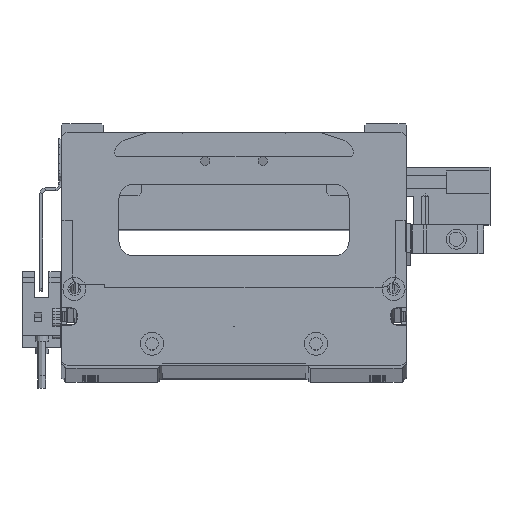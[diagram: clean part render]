
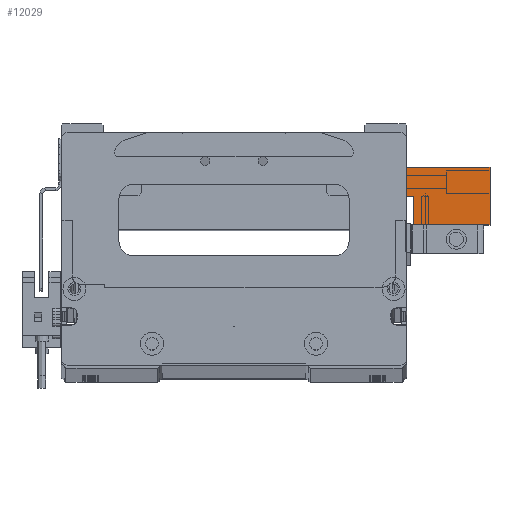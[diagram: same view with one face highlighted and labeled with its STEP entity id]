
A CAD part, top view. The second image highlights one B-rep face of the part: STEP entity #12029.
In plain terms, the highlighted planar face has unit normal (0, 0, 1) as drawn and (-1, 0, 0) by its records, which use the part's own axes.
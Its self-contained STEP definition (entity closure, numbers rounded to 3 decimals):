
#216 = CARTESIAN_POINT ( 'NONE',  ( -130.52, 37.563, 10. ) ) ;
#1068 = EDGE_CURVE ( 'NONE', #1139, #30859, #33059, .T. ) ;
#1106 = LINE ( 'NONE', #15042, #22186 ) ;
#1139 = VERTEX_POINT ( 'NONE', #13412 ) ;
#1992 = CARTESIAN_POINT ( 'NONE',  ( -130.52, 35.063, 10. ) ) ;
#2081 = VERTEX_POINT ( 'NONE', #11162 ) ;
#2779 = CARTESIAN_POINT ( 'NONE',  ( -130.52, 35.063, 0. ) ) ;
#3017 = VECTOR ( 'NONE', #18274, 1000. ) ;
#3190 = LINE ( 'NONE', #18556, #23072 ) ;
#3749 = LINE ( 'NONE', #31230, #11228 ) ;
#4391 = DIRECTION ( 'NONE',  ( 0., -1., 0. ) ) ;
#5702 = DIRECTION ( 'NONE',  ( 0., -1., 0. ) ) ;
#7121 = DIRECTION ( 'NONE',  ( 0., 0., -1. ) ) ;
#7205 = ORIENTED_EDGE ( 'NONE', *, *, #1068, .T. ) ;
#8000 = AXIS2_PLACEMENT_3D ( 'NONE', #28263, #20500, #7121 ) ;
#9073 = VERTEX_POINT ( 'NONE', #18221 ) ;
#9740 = VERTEX_POINT ( 'NONE', #2779 ) ;
#10949 = EDGE_CURVE ( 'NONE', #9073, #30859, #1106, .T. ) ;
#11095 = ORIENTED_EDGE ( 'NONE', *, *, #16547, .T. ) ;
#11162 = CARTESIAN_POINT ( 'NONE',  ( -130.52, 64.063, 0. ) ) ;
#11169 = ORIENTED_EDGE ( 'NONE', *, *, #10949, .F. ) ;
#11228 = VECTOR ( 'NONE', #12947, 1000. ) ;
#11972 = VECTOR ( 'NONE', #32256, 1000. ) ;
#12029 = ADVANCED_FACE ( 'NONE', ( #25854 ), #28502, .F. ) ;
#12794 = EDGE_CURVE ( 'NONE', #9073, #2081, #29110, .T. ) ;
#12947 = DIRECTION ( 'NONE',  ( 0., 0., -1. ) ) ;
#13412 = CARTESIAN_POINT ( 'NONE',  ( -130.52, 37.563, 10. ) ) ;
#14313 = EDGE_CURVE ( 'NONE', #16760, #9740, #3749, .T. ) ;
#15042 = CARTESIAN_POINT ( 'NONE',  ( -130.52, 64.063, 20. ) ) ;
#16547 = EDGE_CURVE ( 'NONE', #2081, #9740, #3190, .T. ) ;
#16760 = VERTEX_POINT ( 'NONE', #29852 ) ;
#17049 = ORIENTED_EDGE ( 'NONE', *, *, #12794, .T. ) ;
#18221 = CARTESIAN_POINT ( 'NONE',  ( -130.52, 64.063, 20. ) ) ;
#18274 = DIRECTION ( 'NONE',  ( 0., 0., -1. ) ) ;
#18556 = CARTESIAN_POINT ( 'NONE',  ( -130.52, 64.063, 0. ) ) ;
#18607 = EDGE_CURVE ( 'NONE', #1139, #16760, #26754, .T. ) ;
#19111 = EDGE_LOOP ( 'NONE', ( #22281, #7205, #11169, #17049, #11095, #20561 ) ) ;
#20500 = DIRECTION ( 'NONE',  ( 1., 0., 0. ) ) ;
#20561 = ORIENTED_EDGE ( 'NONE', *, *, #14313, .F. ) ;
#22186 = VECTOR ( 'NONE', #4391, 1000. ) ;
#22281 = ORIENTED_EDGE ( 'NONE', *, *, #18607, .F. ) ;
#23072 = VECTOR ( 'NONE', #5702, 1000. ) ;
#25854 = FACE_OUTER_BOUND ( 'NONE', #19111, .T. ) ;
#26280 = CARTESIAN_POINT ( 'NONE',  ( -130.52, 37.563, 20. ) ) ;
#26754 = LINE ( 'NONE', #1992, #33816 ) ;
#28263 = CARTESIAN_POINT ( 'NONE',  ( -130.52, 64.063, 20. ) ) ;
#28502 = PLANE ( 'NONE',  #8000 ) ;
#28695 = DIRECTION ( 'NONE',  ( 0., -1., 0. ) ) ;
#29110 = LINE ( 'NONE', #34242, #3017 ) ;
#29852 = CARTESIAN_POINT ( 'NONE',  ( -130.52, 35.063, 10. ) ) ;
#30859 = VERTEX_POINT ( 'NONE', #26280 ) ;
#31230 = CARTESIAN_POINT ( 'NONE',  ( -130.52, 35.063, 20. ) ) ;
#32256 = DIRECTION ( 'NONE',  ( 0., 0., 1. ) ) ;
#33059 = LINE ( 'NONE', #216, #11972 ) ;
#33816 = VECTOR ( 'NONE', #28695, 1000. ) ;
#34242 = CARTESIAN_POINT ( 'NONE',  ( -130.52, 64.063, 20. ) ) ;
